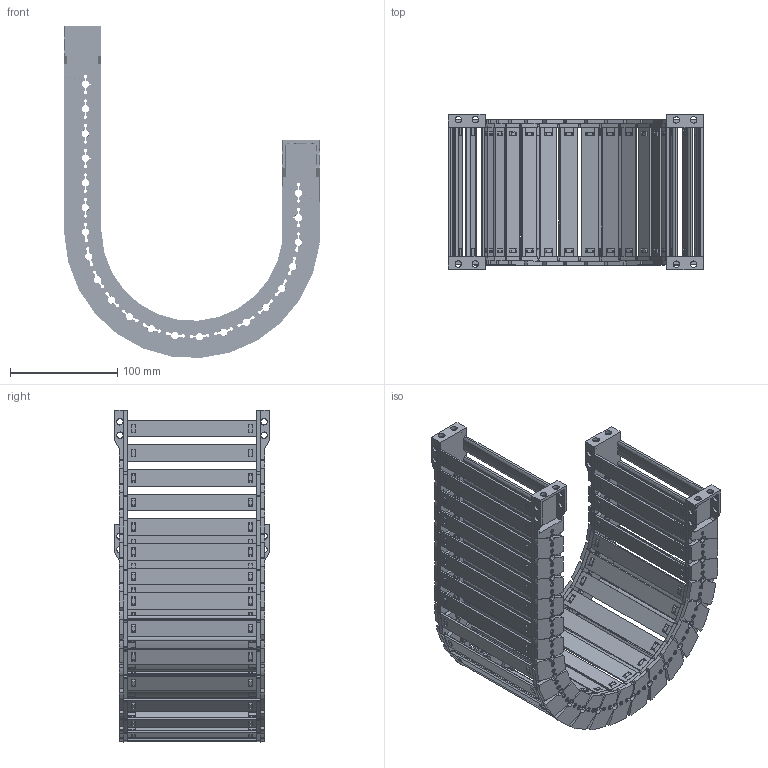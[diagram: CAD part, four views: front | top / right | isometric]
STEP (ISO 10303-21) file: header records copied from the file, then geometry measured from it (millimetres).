
FILE_DESCRIPTION(/* description */ (''),/* implementation_level */ '2;1');
FILE_NAME(/* name */ 'JY28-120-R100.stp',/* time_stamp */ '2026-06-03T16:17:05+08:00',/* author */ (''),/* organization */ (''),/* preprocessor_version */ 'ST-DEVELOPER v19.4',/* originating_system */ 'SIEMENS PLM Software NX2306.5001',/* authorisation */ '');
FILE_SCHEMA (('AP203_CONFIGURATION_CONTROLLED_3D_DESIGN_OF_MECHANICAL_PARTS_AND_ASSEMBLIES_MIM_LF { 1 0 10303 403 2 1 2}'));
Products named in the file (1): 简化图纸_objects
Bounding box: 238.21 x 144.5 x 309.61 mm (x, y, z)
Volume: 551603 mm3; surface area: 397204.8 mm2
Topology: 86 solids, 86 shells, 7166 faces, 20384 edges, 13324 vertices
Faces by surface type: plane 4694, cone 1300, cylinder 1128, bspline 42, torus 2
Full cylindrical faces by diameter (mm): 6 x24
Entity records: 242416 total; most frequent: CARTESIAN_POINT 53852, ORIENTED_EDGE 40676, DIRECTION 38192, EDGE_CURVE 20338, LINE 13462, VECTOR 13462, VERTEX_POINT 13302, AXIS2_PLACEMENT_3D 12365
